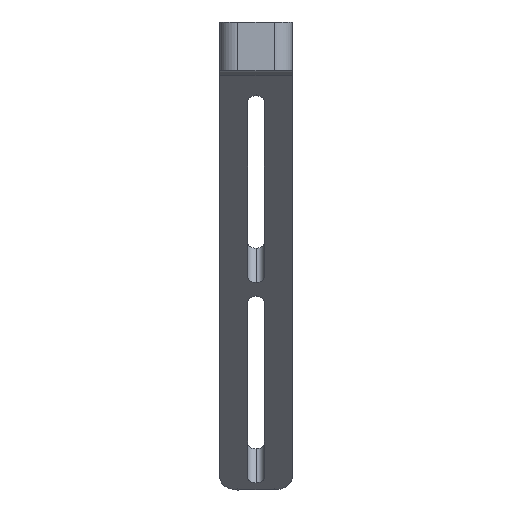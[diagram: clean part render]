
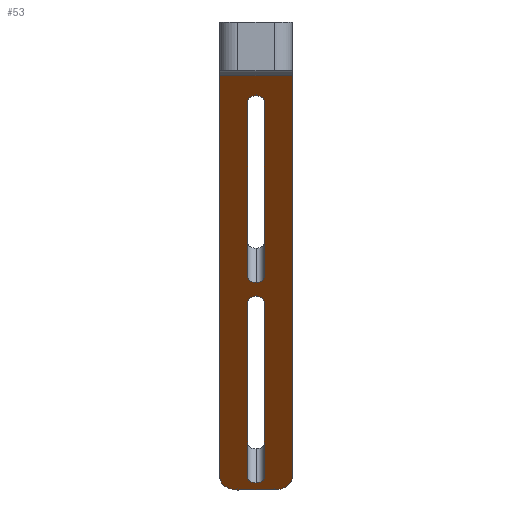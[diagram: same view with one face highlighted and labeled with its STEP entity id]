
A CAD part, left-side view. The second image highlights one B-rep face of the part: STEP entity #53.
In plain terms, the highlighted planar face has unit normal (-0.707, 0, -0.707).
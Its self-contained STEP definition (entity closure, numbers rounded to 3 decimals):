
#45=FACE_BOUND('',#127,.F.);
#46=FACE_BOUND('',#128,.F.);
#53=ADVANCED_FACE('',(#45,#46,#90),#372,.T.);
#90=FACE_OUTER_BOUND('',#129,.F.);
#127=EDGE_LOOP('',(#190,#191,#192,#193,#194,#195));
#128=EDGE_LOOP('',(#196,#197,#198,#199,#200,#201));
#129=EDGE_LOOP('',(#202,#203,#204,#205,#206,#207));
#190=ORIENTED_EDGE('',*,*,#596,.T.);
#191=ORIENTED_EDGE('',*,*,#593,.T.);
#192=ORIENTED_EDGE('',*,*,#592,.T.);
#193=ORIENTED_EDGE('',*,*,#598,.T.);
#194=ORIENTED_EDGE('',*,*,#587,.T.);
#195=ORIENTED_EDGE('',*,*,#590,.T.);
#196=ORIENTED_EDGE('',*,*,#584,.T.);
#197=ORIENTED_EDGE('',*,*,#581,.T.);
#198=ORIENTED_EDGE('',*,*,#580,.T.);
#199=ORIENTED_EDGE('',*,*,#586,.T.);
#200=ORIENTED_EDGE('',*,*,#575,.T.);
#201=ORIENTED_EDGE('',*,*,#578,.T.);
#202=ORIENTED_EDGE('',*,*,#633,.T.);
#203=ORIENTED_EDGE('',*,*,#560,.F.);
#204=ORIENTED_EDGE('',*,*,#617,.T.);
#205=ORIENTED_EDGE('',*,*,#611,.F.);
#206=ORIENTED_EDGE('',*,*,#614,.F.);
#207=ORIENTED_EDGE('',*,*,#564,.F.);
#372=PLANE('',#766);
#401=CIRCLE('',#736,1.35);
#404=CIRCLE('',#739,1.35);
#406=CIRCLE('',#741,1.35);
#407=CIRCLE('',#742,1.35);
#409=CIRCLE('',#744,1.35);
#412=CIRCLE('',#747,1.35);
#414=CIRCLE('',#749,1.35);
#415=CIRCLE('',#750,1.35);
#438=LINE('',#1133,#503);
#440=LINE('',#1135,#505);
#442=LINE('',#1145,#507);
#444=LINE('',#1147,#509);
#449=LINE('',#1160,#514);
#452=LINE('',#1163,#517);
#455=LINE('',#1166,#520);
#471=LINE('',#1182,#536);
#503=VECTOR('',#837,41.);
#505=VECTOR('',#839,41.);
#507=VECTOR('',#857,41.);
#509=VECTOR('',#859,41.);
#514=VECTOR('',#880,12.);
#517=VECTOR('',#883,94.104);
#520=VECTOR('',#886,94.104);
#536=VECTOR('',#902,6.);
#560=EDGE_CURVE('',#727,#726,#661,.T.);
#564=EDGE_CURVE('',#723,#722,#663,.T.);
#575=EDGE_CURVE('',#713,#712,#401,.T.);
#578=EDGE_CURVE('',#712,#708,#404,.T.);
#580=EDGE_CURVE('',#705,#704,#406,.T.);
#581=EDGE_CURVE('',#703,#705,#407,.T.);
#584=EDGE_CURVE('',#708,#703,#438,.T.);
#586=EDGE_CURVE('',#704,#713,#440,.T.);
#587=EDGE_CURVE('',#701,#700,#409,.T.);
#590=EDGE_CURVE('',#700,#696,#412,.T.);
#592=EDGE_CURVE('',#693,#692,#414,.T.);
#593=EDGE_CURVE('',#691,#693,#415,.T.);
#596=EDGE_CURVE('',#696,#691,#442,.T.);
#598=EDGE_CURVE('',#692,#701,#444,.T.);
#611=EDGE_CURVE('',#677,#676,#449,.T.);
#614=EDGE_CURVE('',#722,#677,#452,.T.);
#617=EDGE_CURVE('',#727,#676,#455,.T.);
#633=EDGE_CURVE('',#723,#726,#471,.T.);
#661=B_SPLINE_CURVE_WITH_KNOTS('',3,(#1085,#1086,#1087,#1088,#1089,#1090,
#1091,#1092,#1093),.UNSPECIFIED.,.F.,.F.,(4,1,1,1,1,1,4),(0.,0.195,
0.333,0.5,0.667,0.805,
1.),.UNSPECIFIED.);
#663=B_SPLINE_CURVE_WITH_KNOTS('',3,(#1105,#1106,#1107,#1108,#1109,#1110,
#1111,#1112,#1113),.UNSPECIFIED.,.F.,.F.,(4,1,1,1,1,1,4),(0.,0.195,
0.333,0.5,0.667,0.805,
1.),.UNSPECIFIED.);
#676=VERTEX_POINT('',#1022);
#677=VERTEX_POINT('',#1023);
#691=VERTEX_POINT('',#1037);
#692=VERTEX_POINT('',#1038);
#693=VERTEX_POINT('',#1039);
#696=VERTEX_POINT('',#1042);
#700=VERTEX_POINT('',#1046);
#701=VERTEX_POINT('',#1047);
#703=VERTEX_POINT('',#1049);
#704=VERTEX_POINT('',#1050);
#705=VERTEX_POINT('',#1051);
#708=VERTEX_POINT('',#1054);
#712=VERTEX_POINT('',#1058);
#713=VERTEX_POINT('',#1059);
#722=VERTEX_POINT('',#1068);
#723=VERTEX_POINT('',#1069);
#726=VERTEX_POINT('',#1072);
#727=VERTEX_POINT('',#1073);
#736=AXIS2_PLACEMENT_3D('',#1124,#820,#821);
#739=AXIS2_PLACEMENT_3D('',#1127,#826,#827);
#741=AXIS2_PLACEMENT_3D('',#1129,#830,#831);
#742=AXIS2_PLACEMENT_3D('',#1130,#832,#833);
#744=AXIS2_PLACEMENT_3D('',#1136,#840,#841);
#747=AXIS2_PLACEMENT_3D('',#1139,#846,#847);
#749=AXIS2_PLACEMENT_3D('',#1141,#850,#851);
#750=AXIS2_PLACEMENT_3D('',#1142,#852,#853);
#766=AXIS2_PLACEMENT_3D('',#1211,#937,#938);
#820=DIRECTION('',(-0.707,0.,-0.707));
#821=DIRECTION('',(0.,-1.,0.));
#826=DIRECTION('',(-0.707,0.,-0.707));
#827=DIRECTION('',(-0.707,0.,0.707));
#830=DIRECTION('',(-0.707,0.,-0.707));
#831=DIRECTION('',(0.707,0.,-0.707));
#832=DIRECTION('',(-0.707,0.,-0.707));
#833=DIRECTION('',(0.,1.,0.));
#837=DIRECTION('',(0.707,0.,-0.707));
#839=DIRECTION('',(-0.707,0.,0.707));
#840=DIRECTION('',(-0.707,0.,-0.707));
#841=DIRECTION('',(0.,-1.,0.));
#846=DIRECTION('',(-0.707,0.,-0.707));
#847=DIRECTION('',(-0.707,0.,0.707));
#850=DIRECTION('',(-0.707,0.,-0.707));
#851=DIRECTION('',(0.707,0.,-0.707));
#852=DIRECTION('',(-0.707,0.,-0.707));
#853=DIRECTION('',(0.,1.,0.));
#857=DIRECTION('',(0.707,0.,-0.707));
#859=DIRECTION('',(-0.707,0.,0.707));
#880=DIRECTION('',(0.,1.,0.));
#883=DIRECTION('',(-0.707,0.,0.707));
#886=DIRECTION('',(-0.707,0.,0.707));
#902=DIRECTION('',(0.,1.,0.));
#937=DIRECTION('',(-0.707,0.,-0.707));
#938=DIRECTION('',(-0.707,0.,0.707));
#1022=CARTESIAN_POINT('',(-39.863,66.8,139.921));
#1023=CARTESIAN_POINT('',(-39.863,54.8,139.921));
#1037=CARTESIAN_POINT('',(26.679,62.15,73.38));
#1038=CARTESIAN_POINT('',(26.679,59.45,73.38));
#1039=CARTESIAN_POINT('',(27.633,60.8,72.425));
#1042=CARTESIAN_POINT('',(-2.313,62.15,102.371));
#1046=CARTESIAN_POINT('',(-3.267,60.8,103.326));
#1047=CARTESIAN_POINT('',(-2.313,59.45,102.371));
#1049=CARTESIAN_POINT('',(-6.555,62.15,106.614));
#1050=CARTESIAN_POINT('',(-6.555,59.45,106.614));
#1051=CARTESIAN_POINT('',(-5.601,60.8,105.659));
#1054=CARTESIAN_POINT('',(-35.547,62.15,135.605));
#1058=CARTESIAN_POINT('',(-36.501,60.8,136.56));
#1059=CARTESIAN_POINT('',(-35.547,59.45,135.605));
#1068=CARTESIAN_POINT('',(26.679,54.8,73.38));
#1069=CARTESIAN_POINT('',(28.8,57.8,71.258));
#1072=CARTESIAN_POINT('',(28.8,63.8,71.258));
#1073=CARTESIAN_POINT('',(26.679,66.8,73.38));
#1085=CARTESIAN_POINT('',(26.679,66.8,73.38));
#1086=CARTESIAN_POINT('',(26.895,66.8,73.164));
#1087=CARTESIAN_POINT('',(27.264,66.72,72.794));
#1088=CARTESIAN_POINT('',(27.776,66.401,72.282));
#1089=CARTESIAN_POINT('',(28.196,65.946,71.862));
#1090=CARTESIAN_POINT('',(28.518,65.352,71.54));
#1091=CARTESIAN_POINT('',(28.743,64.628,71.315));
#1092=CARTESIAN_POINT('',(28.8,64.105,71.258));
#1093=CARTESIAN_POINT('',(28.8,63.8,71.258));
#1105=CARTESIAN_POINT('',(28.8,57.8,71.258));
#1106=CARTESIAN_POINT('',(28.8,57.495,71.258));
#1107=CARTESIAN_POINT('',(28.743,56.972,71.315));
#1108=CARTESIAN_POINT('',(28.518,56.248,71.54));
#1109=CARTESIAN_POINT('',(28.196,55.654,71.862));
#1110=CARTESIAN_POINT('',(27.776,55.199,72.282));
#1111=CARTESIAN_POINT('',(27.264,54.88,72.794));
#1112=CARTESIAN_POINT('',(26.895,54.8,73.164));
#1113=CARTESIAN_POINT('',(26.679,54.8,73.38));
#1124=CARTESIAN_POINT('',(-35.547,60.8,135.605));
#1127=CARTESIAN_POINT('',(-35.547,60.8,135.605));
#1129=CARTESIAN_POINT('',(-6.555,60.8,106.614));
#1130=CARTESIAN_POINT('',(-6.555,60.8,106.614));
#1133=CARTESIAN_POINT('',(-35.547,62.15,135.605));
#1135=CARTESIAN_POINT('',(-6.555,59.45,106.614));
#1136=CARTESIAN_POINT('',(-2.313,60.8,102.371));
#1139=CARTESIAN_POINT('',(-2.313,60.8,102.371));
#1141=CARTESIAN_POINT('',(26.679,60.8,73.38));
#1142=CARTESIAN_POINT('',(26.679,60.8,73.38));
#1145=CARTESIAN_POINT('',(-2.313,62.15,102.371));
#1147=CARTESIAN_POINT('',(26.679,59.45,73.38));
#1160=CARTESIAN_POINT('',(-39.863,54.8,139.921));
#1163=CARTESIAN_POINT('',(26.679,54.8,73.38));
#1166=CARTESIAN_POINT('',(26.679,66.8,73.38));
#1182=CARTESIAN_POINT('',(28.8,57.8,71.258));
#1211=CARTESIAN_POINT('',(29.496,53.817,70.563));
